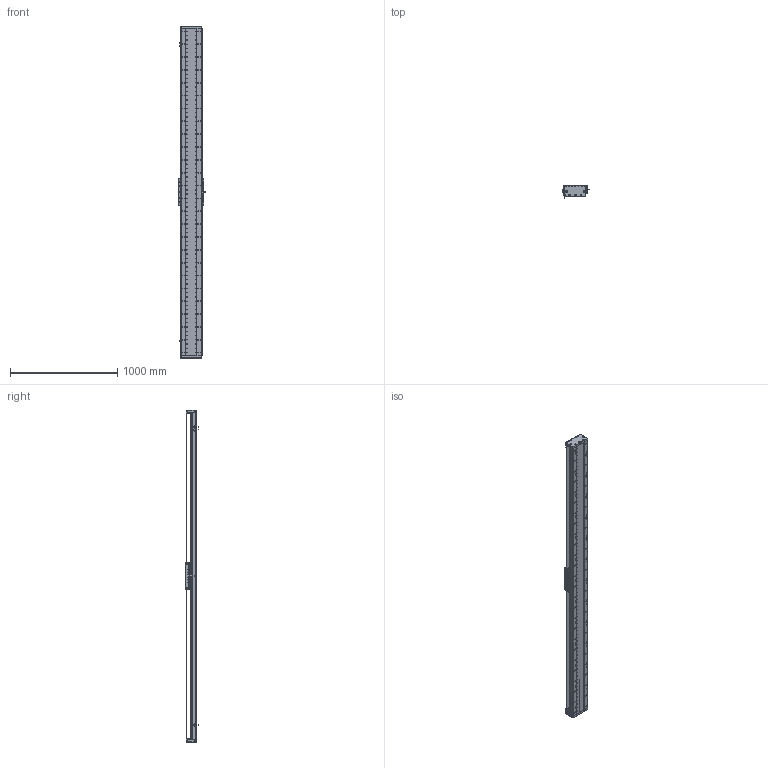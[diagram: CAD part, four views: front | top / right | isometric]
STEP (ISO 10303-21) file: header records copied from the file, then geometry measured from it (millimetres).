
FILE_DESCRIPTION (( 'STEP AP203' ), '1' );
FILE_NAME ('DA-C195-C3-T2760-C010-0.2 眻盄萇儂.STEP', '2025-08-15T01:30:01', ( '' ), ( '' ), 'SwSTEP 2.0', 'SolidWorks 2019', '' );
FILE_SCHEMA (( 'CONFIG_CONTROL_DESIGN' ));
Length unit declared in the file: millimetre
Products named in the file (15): LMT黍杅芛; DA-C195-GD-DB-H-00 傷啣; DA195詩湍郪璃; DA195詩湍菜輸; CU195-C3賑輸-俋楷; DA165-GYP-00 光电感应片(默认); DA195詩湍嶺輸; IU-CU195-L-00 菁釱(L3060); DA195詩湍裔啣; DA95-HXJ-00 遣喳砎蝶; DA-C195-C3-T2760-C010-0.2 眻盄萇儂; 葩璃 DA95-GT-T-00; PM-T45ㄗ侂狟ㄘ; IU-CU195-L 菁釱絳寢; MS200 棠掑喜S315-T240
Assembly tree (29 placements, depth 3):
  DA-C195-C3-T2760-C010-0.2 眻盄萇儂
    DA195詩湍郪璃
      DA195詩湍菜輸  x2
      DA195詩湍裔啣
      DA195詩湍嶺輸  x2
      DA95-HXJ-00 遣喳砎蝶  x8
      DA-C195-GD-DB-H-00 傷啣  x2
    IU-CU195-L 菁釱絳寢
      IU-CU195-L-00 菁釱(L3060)
      葩璃 DA95-GT-T-00  x4
    LMT黍杅芛
    MS200 棠掑喜S315-T240
    PM-T45ㄗ侂狟ㄘ  x3
    DA165-GYP-00 光电感应片(默认)
    CU195-C3賑輸-俋楷
Bounding box: 248 x 115.45 x 3100 mm (x, y, z)
Volume: 17842910.1 mm3; surface area: 5275739.6 mm2
Topology: 86 solids, 118 shells, 4536 faces, 12975 edges, 8209 vertices
Faces by surface type: cylinder 2562, plane 1372, cone 514, torus 52, sphere 36
Entity records: 150117 total; most frequent: CARTESIAN_POINT 41996, ORIENTED_EDGE 22866, DIRECTION 21606, EDGE_CURVE 11433, AXIS2_PLACEMENT_3D 8125, VERTEX_POINT 7411, LINE 5356, VECTOR 5356
